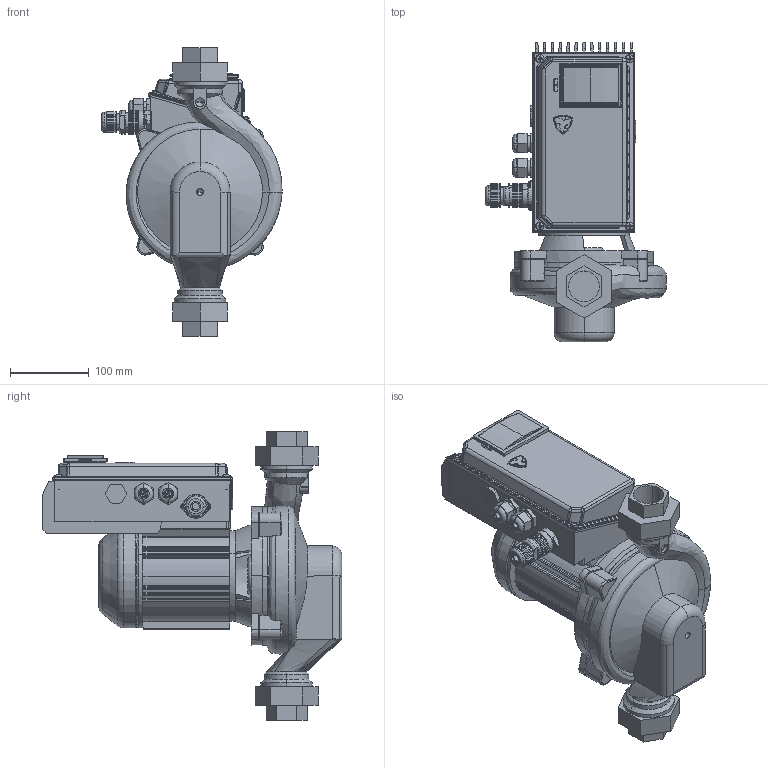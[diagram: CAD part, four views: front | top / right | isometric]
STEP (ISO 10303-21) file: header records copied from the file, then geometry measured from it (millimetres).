
FILE_DESCRIPTION(('STEP AP214'),'1');
FILE_NAME('export.stp','2018-05-31T11:17:06',(' '),(' '),'Spatial InterOp 3D',' ',' ');
FILE_SCHEMA(('AUTOMOTIVE_DESIGN { 1 0 10303 214 1 1 1 1 }'));
Length unit declared in the file: millimetre
Products named in the file (32): W_AE334200SCMITTA; V_PPAE33; V_TLAEAP3233L40A; V_EKN13OP752; V_MOP752753762_SC; RU_OP_752_753_762; TSUOJA_OP_7; P100471; P100466; P100453; P100467; DIN_7985-M5x12; P100515; P100512; P100513; P100514; P100509; ontto_sylinteri; DIN_7985-M3x12; P100606; P100607; P100565; P100567; P100566; P100569; P100581; P101504; P101332; PART3; PART4
Assembly tree (36 placements, depth 4):
  W_AE334200SCMITTA
    V_PPAE33
    V_TLAEAP3233L40A
    V_EKN13OP752
    V_MOP752753762_SC
      RU_OP_752_753_762
      TSUOJA_OP_7
    P100471
      P100466
      P100453
      P100467
      DIN_7985-M5x12  x4
      P100515
        P100512
        P100513
        P100514
        P100509
        ontto_sylinteri
      DIN_7985-M3x12  x2
      P100606
        P100607
        P100565
        ontto_sylinteri
      P100567
        P100566
        P100565
        ontto_sylinteri
      P100569
      P100581
      P101504
      P101332
        PART3
        PART4
Bounding box: 228.34 x 379.58 x 366 mm (x, y, z)
Volume: 3633618.7 mm3; surface area: 773783.7 mm2
Topology: 30 solids, 30 shells, 2430 faces, 6427 edges, 4108 vertices
Faces by surface type: plane 1117, cylinder 889, torus 144, cone 116, sphere 88, bspline 76
Entity records: 105224 total; most frequent: CARTESIAN_POINT 20023, DIRECTION 12834, ORIENTED_EDGE 12190, EDGE_CURVE 6095, AXIS2_PLACEMENT_3D 4792, VERTEX_POINT 3934, STYLED_ITEM 3740, PRESENTATION_STYLE_ASSIGNMENT 3740
